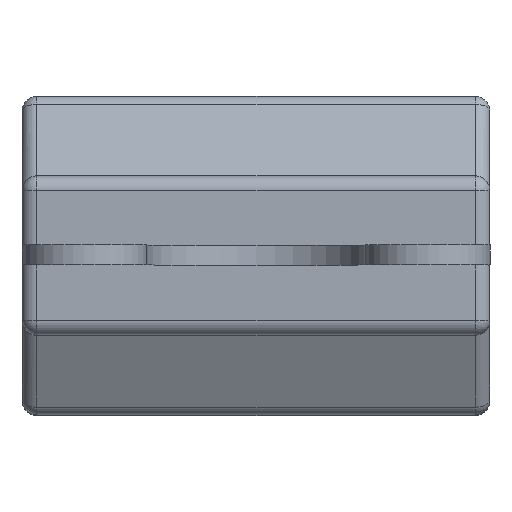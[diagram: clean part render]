
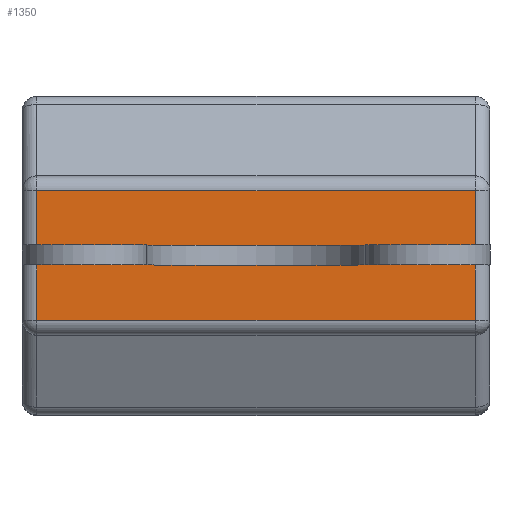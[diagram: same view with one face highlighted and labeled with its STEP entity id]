
A CAD part, top view. The second image highlights one B-rep face of the part: STEP entity #1350.
In plain terms, the highlighted planar face has unit normal (0, 0, 1) as drawn and (0, 1, 0) by its records, which use the part's own axes.
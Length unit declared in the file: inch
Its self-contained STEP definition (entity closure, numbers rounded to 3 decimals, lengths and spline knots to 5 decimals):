
#167=FACE_OUTER_BOUND('',#253,.T.);
#253=EDGE_LOOP('',(#1190,#1191,#1192,#1193));
#390=LINE('',#2229,#510);
#396=LINE('',#2262,#516);
#398=LINE('',#2265,#518);
#434=LINE('',#2380,#554);
#510=VECTOR('',#1795,0.3937);
#516=VECTOR('',#1833,0.3937);
#518=VECTOR('',#1837,0.3937);
#554=VECTOR('',#1973,0.3937);
#623=VERTEX_POINT('',#2196);
#630=VERTEX_POINT('',#2220);
#633=VERTEX_POINT('',#2233);
#642=VERTEX_POINT('',#2258);
#773=EDGE_CURVE('',#623,#630,#390,.T.);
#789=EDGE_CURVE('',#630,#642,#396,.T.);
#791=EDGE_CURVE('',#642,#633,#398,.T.);
#852=EDGE_CURVE('',#633,#623,#434,.T.);
#1190=ORIENTED_EDGE('',*,*,#773,.F.);
#1191=ORIENTED_EDGE('',*,*,#852,.F.);
#1192=ORIENTED_EDGE('',*,*,#791,.F.);
#1193=ORIENTED_EDGE('',*,*,#789,.F.);
#1264=PLANE('',#1566);
#1350=ADVANCED_FACE('',(#167),#1264,.T.);
#1566=AXIS2_PLACEMENT_3D('',#2397,#1997,#1998);
#1795=DIRECTION('',(-1.,0.,0.));
#1833=DIRECTION('',(0.,0.,-1.));
#1837=DIRECTION('',(1.,0.,0.));
#1973=DIRECTION('',(0.,0.,1.));
#1997=DIRECTION('center_axis',(0.,1.,0.));
#1998=DIRECTION('ref_axis',(-1.,0.,0.));
#2196=CARTESIAN_POINT('',(0.22,0.315,0.065));
#2220=CARTESIAN_POINT('',(-0.22,0.315,0.065));
#2229=CARTESIAN_POINT('',(0.235,0.315,0.065));
#2233=CARTESIAN_POINT('',(0.22,0.315,-0.065));
#2258=CARTESIAN_POINT('',(-0.22,0.315,-0.065));
#2262=CARTESIAN_POINT('',(-0.22,0.315,0.));
#2265=CARTESIAN_POINT('',(0.235,0.315,-0.065));
#2380=CARTESIAN_POINT('',(0.22,0.315,0.));
#2397=CARTESIAN_POINT('Origin',(0.235,0.315,0.));
